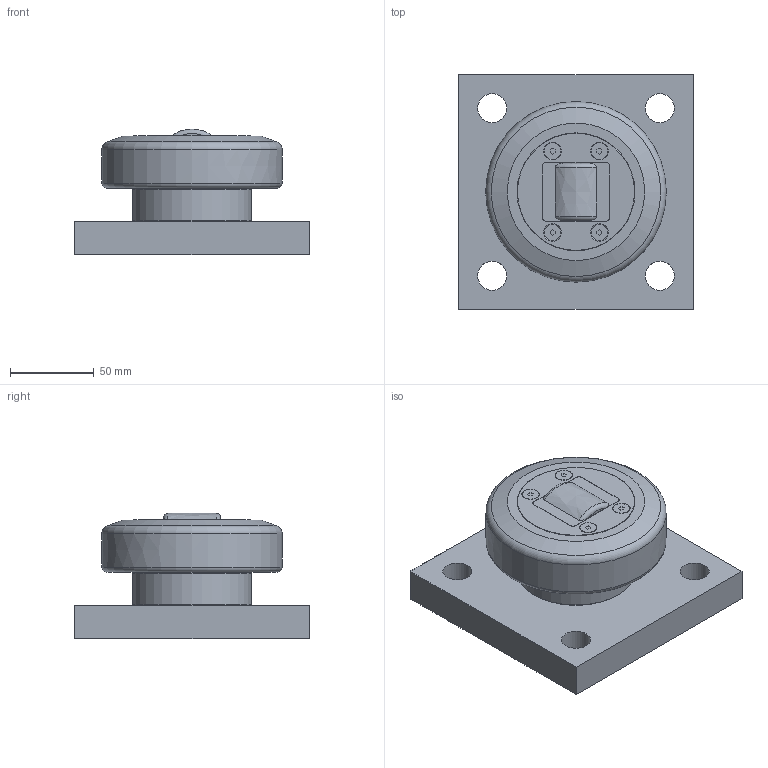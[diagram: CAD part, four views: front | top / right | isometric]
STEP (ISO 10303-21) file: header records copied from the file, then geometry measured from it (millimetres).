
FILE_DESCRIPTION(/* description */ ('-','CAx-IF Rec.Pracs.---Representation and Presentation of Product Manufacturing Information (PMI)---4.0---2014-10-13'),/* implementation_level */ '2;1');
FILE_NAME(/* name */ 'c:\temp\5162d6ec-e4eb-4619-8e31-41801c5aa0f5\51d210f8-affb-45ed-8ae0-21187d6c4424.stp',/* time_stamp */ '2020-04-01T16:07:46+02:00',/* author */ ('-'),/* organization */ ('NTI CADcenter A/S'),/* preprocessor_version */ 'ST-DEVELOPER v18',/* originating_system */ 'Autodesk Inventor 2020',/* authorisation */ '-');
FILE_SCHEMA (('AP242_MANAGED_MODEL_BASED_3D_ENGINEERING_MIM_LF { 1 0 10303 442 1 1 4 }'));
Length unit declared in the file: millimetre
Products named in the file (1): HTR 110.0200 BQ1000_Kontur
Bounding box: 140 x 140 x 75.1 mm (x, y, z)
Volume: 726196 mm3; surface area: 76539.7 mm2
Topology: 1 solids, 1 shells, 77 faces, 199 edges, 138 vertices
Faces by surface type: plane 49, cylinder 14, cone 8, torus 4, bspline 2
Full cylindrical faces by diameter (mm): 10 x4, 17.294 x4, 70.5 x1, 71 x1
Entity records: 2511 total; most frequent: CARTESIAN_POINT 495, DIRECTION 418, ORIENTED_EDGE 398, EDGE_CURVE 199, AXIS2_PLACEMENT_3D 149, VERTEX_POINT 138, LINE 120, VECTOR 120
